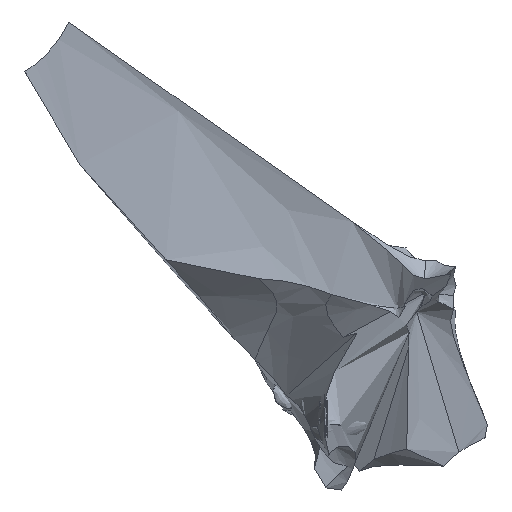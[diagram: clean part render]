
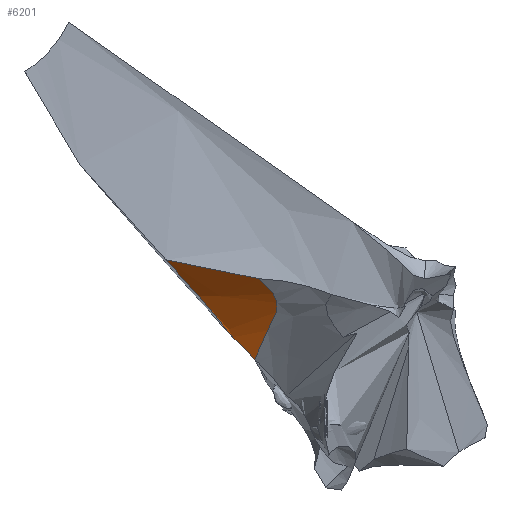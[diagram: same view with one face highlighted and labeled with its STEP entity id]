
A CAD part, left-side view. The second image highlights one B-rep face of the part: STEP entity #6201.
In plain terms, the highlighted conical face has half-angle 60 degrees and reference radius 3 mm.
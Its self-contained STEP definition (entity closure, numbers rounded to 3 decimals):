
#98 = CARTESIAN_POINT ( 'NONE',  ( -13.913, 39.778, 91.649 ) ) ;
#156 = CARTESIAN_POINT ( 'NONE',  ( -23.032, 39.415, 103.284 ) ) ;
#236 = B_SPLINE_CURVE_WITH_KNOTS ( 'NONE', 3,
 ( #9498, #6674, #9565, #18405, #9758, #14183, #18600, #18472, #1055, #5549, #3921, #11303 ),
 .UNSPECIFIED., .F., .F.,
 ( 4, 2, 2, 2, 2, 4 ),
 ( 0.023, 0.049, 0.075, 0.088, 0.101, 0.127 ),
 .UNSPECIFIED. ) ;
#271 = CARTESIAN_POINT ( 'NONE',  ( -16.296, 38.946, 94.726 ) ) ;
#981 = CONICAL_SURFACE ( 'NONE', #15390, 3., 1.047 ) ;
#1049 = CARTESIAN_POINT ( 'NONE',  ( 10.938, 64.509, 58.159 ) ) ;
#1055 = CARTESIAN_POINT ( 'NONE',  ( -30.129, 118.953, 120.247 ) ) ;
#1592 = VERTEX_POINT ( 'NONE', #3471 ) ;
#1617 = CARTESIAN_POINT ( 'NONE',  ( -18.132, 38.636, 97.077 ) ) ;
#1794 = CARTESIAN_POINT ( 'NONE',  ( -2.79, 46.975, 76.689 ) ) ;
#2704 = EDGE_CURVE ( 'NONE', #4325, #16969, #14671, .T. ) ;
#3033 = CARTESIAN_POINT ( 'NONE',  ( -12.743, 40.325, 90.126 ) ) ;
#3093 = CARTESIAN_POINT ( 'NONE',  ( -31.488, 45.962, 113.629 ) ) ;
#3108 = CARTESIAN_POINT ( 'NONE',  ( 13.496, 58.115, 51.665 ) ) ;
#3154 = CARTESIAN_POINT ( 'NONE',  ( -14.503, 39.533, 92.413 ) ) ;
#3471 = CARTESIAN_POINT ( 'NONE',  ( 4.953, 77.336, 70.852 ) ) ;
#3871 = EDGE_LOOP ( 'NONE', ( #4109, #18057, #13388, #12180 ) ) ;
#3885 = DIRECTION ( 'NONE',  ( 0.699, 0., -0.715 ) ) ;
#3921 = CARTESIAN_POINT ( 'NONE',  ( -42.255, 131.103, 133.51 ) ) ;
#4050 = CARTESIAN_POINT ( 'NONE',  ( 8.085, 70.919, 64.558 ) ) ;
#4109 = ORIENTED_EDGE ( 'NONE', *, *, #7398, .F. ) ;
#4325 = VERTEX_POINT ( 'NONE', #3108 ) ;
#4492 = CARTESIAN_POINT ( 'NONE',  ( -38.739, 54.478, 121.942 ) ) ;
#4548 = CARTESIAN_POINT ( 'NONE',  ( -29.877, 44.33, 111.708 ) ) ;
#4662 = CARTESIAN_POINT ( 'NONE',  ( -22.73, 39.295, 102.905 ) ) ;
#4723 = CARTESIAN_POINT ( 'NONE',  ( -23.934, 39.83, 104.414 ) ) ;
#5411 = CARTESIAN_POINT ( 'NONE',  ( 13.496, 58.115, 51.665 ) ) ;
#5549 = CARTESIAN_POINT ( 'NONE',  ( -37.315, 126.259, 128.292 ) ) ;
#5574 = CARTESIAN_POINT ( 'NONE',  ( -47.314, 135.931, 138.608 ) ) ;
#5965 = CARTESIAN_POINT ( 'NONE',  ( -17.516, 38.71, 96.289 ) ) ;
#6076 = CARTESIAN_POINT ( 'NONE',  ( 5.53, 53.143, 64.526 ) ) ;
#6135 = CARTESIAN_POINT ( 'NONE',  ( -32.021, 46.529, 114.259 ) ) ;
#6200 = CARTESIAN_POINT ( 'NONE',  ( -30.416, 44.862, 112.354 ) ) ;
#6201 = ADVANCED_FACE ( 'NONE', ( #13074 ), #981, .F. ) ;
#6674 = CARTESIAN_POINT ( 'NONE',  ( 1.535, 82.245, 77.113 ) ) ;
#6761 = CARTESIAN_POINT ( 'NONE',  ( -40.157, 68.044, 124.77 ) ) ;
#7372 = CARTESIAN_POINT ( 'NONE',  ( -37.722, 53.195, 120.813 ) ) ;
#7398 = EDGE_CURVE ( 'NONE', #4325, #1592, #18443, .T. ) ;
#7538 = CARTESIAN_POINT ( 'NONE',  ( 9.558, 55.841, 58.207 ) ) ;
#7591 = CARTESIAN_POINT ( 'NONE',  ( 3.487, 51.669, 67.616 ) ) ;
#8873 = CARTESIAN_POINT ( 'NONE',  ( -15.695, 39.117, 93.952 ) ) ;
#8930 = CARTESIAN_POINT ( 'NONE',  ( -10.439, 41.59, 87.102 ) ) ;
#9040 = CARTESIAN_POINT ( 'NONE',  ( -36.701, 51.933, 119.665 ) ) ;
#9498 = CARTESIAN_POINT ( 'NONE',  ( 4.953, 77.336, 70.852 ) ) ;
#9565 = CARTESIAN_POINT ( 'NONE',  ( -2.165, 87.154, 83.19 ) ) ;
#9758 = CARTESIAN_POINT ( 'NONE',  ( -14.268, 101.848, 100.799 ) ) ;
#9987 = CARTESIAN_POINT ( 'NONE',  ( -38.739, 54.478, 121.942 ) ) ;
#10267 = CARTESIAN_POINT ( 'NONE',  ( -21.218, 38.763, 101.002 ) ) ;
#10285 = CARTESIAN_POINT ( 'NONE',  ( -47.314, 135.931, 138.608 ) ) ;
#10380 = CARTESIAN_POINT ( 'NONE',  ( -12.163, 40.627, 89.367 ) ) ;
#10499 = CARTESIAN_POINT ( 'NONE',  ( -28.242, 42.799, 109.737 ) ) ;
#11115 = VERTEX_POINT ( 'NONE', #10285 ) ;
#11138 = CARTESIAN_POINT ( 'NONE',  ( -38.739, 54.478, 121.942 ) ) ;
#11265 = CARTESIAN_POINT ( 'NONE',  ( -44.444, 108.77, 133.107 ) ) ;
#11269 = DIRECTION ( 'NONE',  ( -0.59, 0.564, -0.577 ) ) ;
#11303 = CARTESIAN_POINT ( 'NONE',  ( -47.314, 135.931, 138.608 ) ) ;
#11373 = CARTESIAN_POINT ( 'NONE',  ( 11.542, 57.065, 54.98 ) ) ;
#11756 = CARTESIAN_POINT ( 'NONE',  ( -23.633, 39.683, 104.038 ) ) ;
#11809 = CARTESIAN_POINT ( 'NONE',  ( -27.133, 41.864, 108.381 ) ) ;
#11930 = CARTESIAN_POINT ( 'NONE',  ( -19.994, 38.566, 99.45 ) ) ;
#11987 = CARTESIAN_POINT ( 'NONE',  ( -17.21, 38.76, 95.897 ) ) ;
#12180 = ORIENTED_EDGE ( 'NONE', *, *, #15905, .F. ) ;
#12898 = CARTESIAN_POINT ( 'NONE',  ( 6.56, 74.132, 67.728 ) ) ;
#13074 = FACE_OUTER_BOUND ( 'NONE', #3871, .T. ) ;
#13213 = CARTESIAN_POINT ( 'NONE',  ( -24.828, 40.307, 105.53 ) ) ;
#13269 = CARTESIAN_POINT ( 'NONE',  ( -33.603, 48.264, 116.115 ) ) ;
#13326 = CARTESIAN_POINT ( 'NONE',  ( -18.443, 38.612, 97.474 ) ) ;
#13385 = CARTESIAN_POINT ( 'NONE',  ( -7.102, 43.806, 82.637 ) ) ;
#13388 = ORIENTED_EDGE ( 'NONE', *, *, #18565, .F. ) ;
#14183 = CARTESIAN_POINT ( 'NONE',  ( -20.89, 109.181, 109.245 ) ) ;
#14671 = B_SPLINE_CURVE_WITH_KNOTS ( 'NONE', 3,
 ( #17160, #11373, #7538, #6076, #7591, #16198, #17533, #1794, #17644, #16257, #13385, #14791, #8930, #10380, #3033, #98, #3154, #8873, #271, #11987, #5965, #1617, #13326, #11930, #10267, #4662, #156, #11756, #4723, #13213, #14846, #11809, #10499, #4548, #6200, #3093, #6135, #13269, #17756, #9040, #7372, #4492 ),
 .UNSPECIFIED., .F., .F.,
 ( 4, 2, 2, 2, 2, 2, 2, 2, 2, 2, 2, 2, 2, 2, 2, 2, 2, 2, 2, 2, 4 ),
 ( 0.01, 0.022, 0.034, 0.04, 0.046, 0.052, 0.058, 0.061, 0.064, 0.067, 0.068, 0.07, 0.076, 0.077, 0.079, 0.082, 0.088, 0.091, 0.094, 0.099, 0.105 ),
 .UNSPECIFIED. ) ;
#14791 = CARTESIAN_POINT ( 'NONE',  ( -9.315, 42.307, 85.611 ) ) ;
#14846 = CARTESIAN_POINT ( 'NONE',  ( -25.412, 40.67, 106.255 ) ) ;
#15390 = AXIS2_PLACEMENT_3D ( 'NONE', #18633, #11269, #3885 ) ;
#15473 = CARTESIAN_POINT ( 'NONE',  ( -45.878, 122.349, 135.862 ) ) ;
#15697 = CARTESIAN_POINT ( 'NONE',  ( 4.953, 77.336, 70.852 ) ) ;
#15833 = CARTESIAN_POINT ( 'NONE',  ( 12.269, 61.31, 54.928 ) ) ;
#15905 = EDGE_CURVE ( 'NONE', #1592, #11115, #236, .T. ) ;
#16198 = CARTESIAN_POINT ( 'NONE',  ( 0.371, 49.354, 72.18 ) ) ;
#16257 = CARTESIAN_POINT ( 'NONE',  ( -6.012, 44.589, 81.154 ) ) ;
#16969 = VERTEX_POINT ( 'NONE', #9987 ) ;
#17160 = CARTESIAN_POINT ( 'NONE',  ( 13.496, 58.115, 51.665 ) ) ;
#17435 = B_SPLINE_CURVE_WITH_KNOTS ( 'NONE', 3,
 ( #5574, #15473, #11265, #18630, #6761, #11138 ),
 .UNSPECIFIED., .F., .F.,
 ( 4, 2, 4 ),
 ( 0.127, 0.168, 0.21 ),
 .UNSPECIFIED. ) ;
#17533 = CARTESIAN_POINT ( 'NONE',  ( -0.676, 48.565, 73.689 ) ) ;
#17644 = CARTESIAN_POINT ( 'NONE',  ( -3.856, 46.173, 78.181 ) ) ;
#17756 = CARTESIAN_POINT ( 'NONE',  ( -34.641, 49.468, 117.316 ) ) ;
#18057 = ORIENTED_EDGE ( 'NONE', *, *, #2704, .T. ) ;
#18405 = CARTESIAN_POINT ( 'NONE',  ( -10.067, 96.955, 95.033 ) ) ;
#18443 = B_SPLINE_CURVE_WITH_KNOTS ( 'NONE', 3,
 ( #5411, #15833, #1049, #4050, #12898, #15697 ),
 .UNSPECIFIED., .F., .F.,
 ( 4, 2, 4 ),
 ( 0.137, 0.151, 0.165 ),
 .UNSPECIFIED. ) ;
#18472 = CARTESIAN_POINT ( 'NONE',  ( -27.769, 116.51, 117.527 ) ) ;
#18565 = EDGE_CURVE ( 'NONE', #11115, #16969, #17435, .T. ) ;
#18600 = CARTESIAN_POINT ( 'NONE',  ( -23.15, 111.624, 112.026 ) ) ;
#18630 = CARTESIAN_POINT ( 'NONE',  ( -41.583, 81.617, 127.56 ) ) ;
#18633 = CARTESIAN_POINT ( 'NONE',  ( -43.431, -90.294, 108.999 ) ) ;
